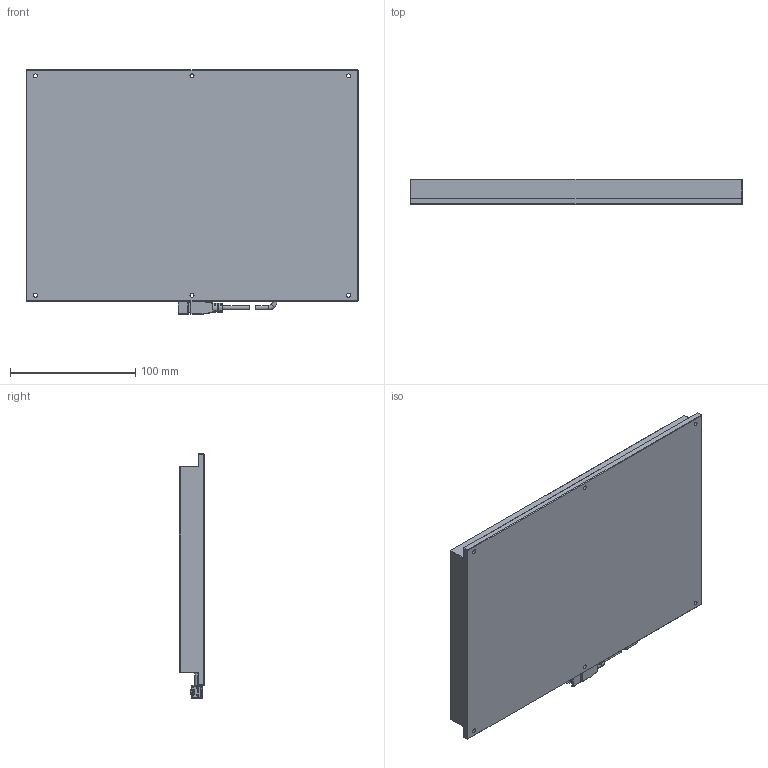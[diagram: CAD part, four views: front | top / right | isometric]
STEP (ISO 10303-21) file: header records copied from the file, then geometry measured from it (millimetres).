
FILE_DESCRIPTION((''),'2;1');
FILE_NAME('MV-LBSS-250-150_ASM','2019-09-19T',('Administrator'),(''),'PRO/ENGINEER BY PARAMETRIC TECHNOLOGY CORPORATION, 2010100','PRO/ENGINEER BY PARAMETRIC TECHNOLOGY CORPORATION, 2010100','');
FILE_SCHEMA(('CONFIG_CONTROL_DESIGN'));
Length unit declared in the file: millimetre
Products named in the file (5): JIANYI_2; LINE_TOU1_1; BODY_121_1; ASSY1_ASM_1_ASM; MV-LBSS-250-150_ASM
Assembly tree (4 placements, depth 3):
  MV-LBSS-250-150_ASM
    JIANYI_2
    ASSY1_ASM_1_ASM
      LINE_TOU1_1
      BODY_121_1
Bounding box: 265 x 20 x 195.25 mm (x, y, z)
Volume: 884152 mm3; surface area: 117860.3 mm2
Topology: 3 solids, 3 shells, 275 faces, 718 edges, 451 vertices
Faces by surface type: plane 166, cylinder 79, torus 12, bspline 8, sphere 8, cone 2
Entity records: 8670 total; most frequent: CARTESIAN_POINT 1760, DIRECTION 1422, ORIENTED_EDGE 1420, EDGE_CURVE 710, VECTOR 478, LINE 478, AXIS2_PLACEMENT_3D 472, VERTEX_POINT 451
